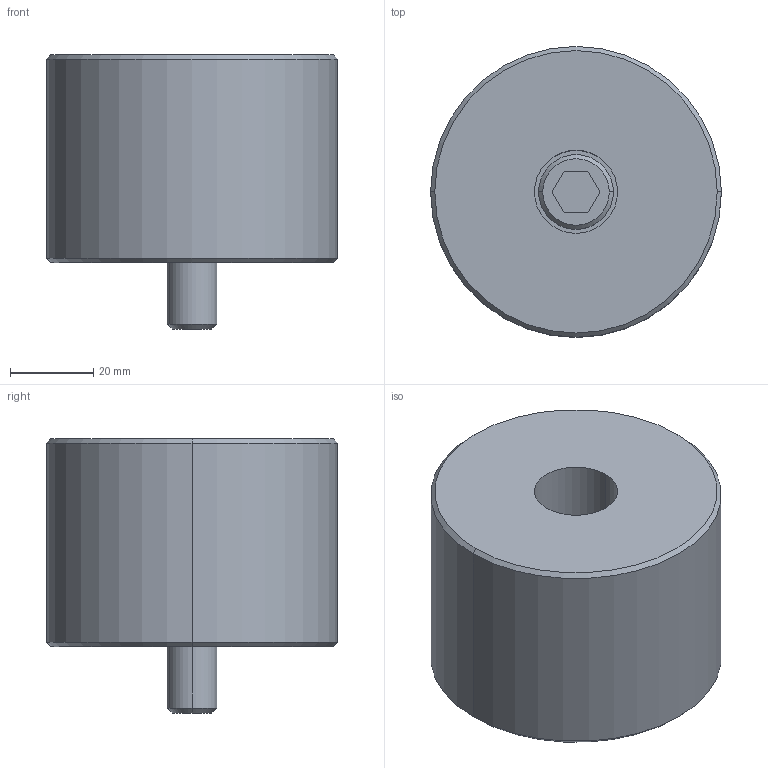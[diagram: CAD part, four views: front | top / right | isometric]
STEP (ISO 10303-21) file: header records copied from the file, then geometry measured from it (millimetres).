
FILE_DESCRIPTION((''),'2;1');
FILE_NAME('','2010-08-30T16:51:10+09:00',('misumi'),(''),'M/STEP i/f 1R2-14','CADmeister v5.1','');
FILE_SCHEMA(('AUTOMOTIVE_DESIGN'));
Length unit declared in the file: millimetre
Products named in the file (1): DEB70-50-R
Bounding box: 70 x 70 x 66 mm (x, y, z)
Volume: 184614.2 mm3; surface area: 23465.6 mm2
Topology: 2 solids, 2 shells, 31 faces, 64 edges, 40 vertices
Faces by surface type: plane 13, cylinder 10, cone 8
Entity records: 924 total; most frequent: DIRECTION 156, CARTESIAN_POINT 136, ORIENTED_EDGE 128, EDGE_CURVE 64, AXIS2_PLACEMENT_3D 60, VERTEX_POINT 40, LINE 36, VECTOR 36
